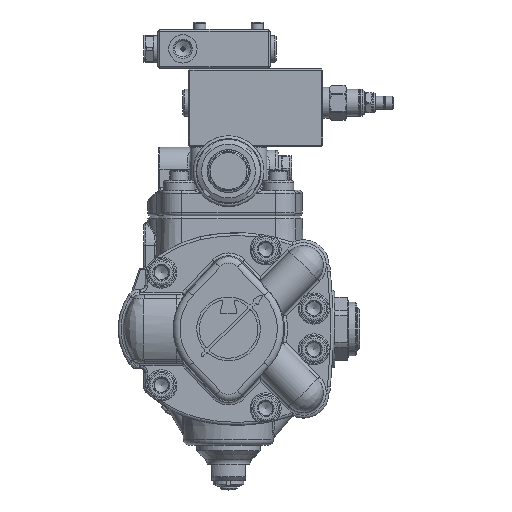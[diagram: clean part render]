
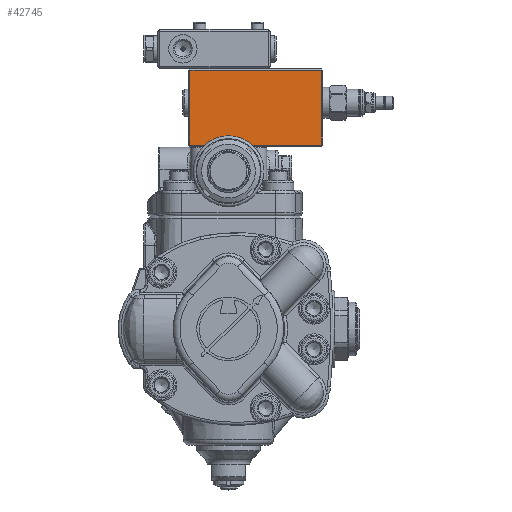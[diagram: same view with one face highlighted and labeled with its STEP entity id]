
A CAD part, top view. The second image highlights one B-rep face of the part: STEP entity #42745.
In plain terms, the highlighted planar face has unit normal (0, 0, 1).
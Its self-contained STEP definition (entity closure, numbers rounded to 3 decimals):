
#1926=PLANE('',#46626);
#4347=FACE_OUTER_BOUND('',#6818,.T.);
#6818=EDGE_LOOP('',(#35519,#35520,#35521,#35522));
#12560=LINE('',#86159,#14978);
#12561=LINE('',#86161,#14979);
#12562=LINE('',#86163,#14980);
#12563=LINE('',#86164,#14981);
#14978=VECTOR('',#56320,10.);
#14979=VECTOR('',#56321,10.);
#14980=VECTOR('',#56322,10.);
#14981=VECTOR('',#56323,10.);
#18640=VERTEX_POINT('',#86157);
#18641=VERTEX_POINT('',#86158);
#18642=VERTEX_POINT('',#86160);
#18643=VERTEX_POINT('',#86162);
#24403=EDGE_CURVE('',#18640,#18641,#12560,.T.);
#24404=EDGE_CURVE('',#18642,#18640,#12561,.T.);
#24405=EDGE_CURVE('',#18643,#18642,#12562,.T.);
#24406=EDGE_CURVE('',#18641,#18643,#12563,.T.);
#35519=ORIENTED_EDGE('',*,*,#24403,.F.);
#35520=ORIENTED_EDGE('',*,*,#24404,.F.);
#35521=ORIENTED_EDGE('',*,*,#24405,.F.);
#35522=ORIENTED_EDGE('',*,*,#24406,.F.);
#42745=ADVANCED_FACE('',(#4347),#1926,.T.);
#46626=AXIS2_PLACEMENT_3D('',#86156,#56318,#56319);
#56318=DIRECTION('center_axis',(0.,0.,
1.));
#56319=DIRECTION('ref_axis',(0.,1.,0.));
#56320=DIRECTION('',(1.,0.,0.));
#56321=DIRECTION('',(0.,1.,0.));
#56322=DIRECTION('',(-1.,0.,0.));
#56323=DIRECTION('',(0.,-1.,0.));
#86156=CARTESIAN_POINT('Origin',(100.297,174.193,74.283));
#86157=CARTESIAN_POINT('',(101.297,173.193,74.283));
#86158=CARTESIAN_POINT('',(194.297,173.193,74.283));
#86159=CARTESIAN_POINT('',(124.047,173.193,74.283));
#86160=CARTESIAN_POINT('',(101.297,120.193,74.283));
#86161=CARTESIAN_POINT('',(101.297,174.193,74.283));
#86162=CARTESIAN_POINT('',(194.297,120.193,74.283));
#86163=CARTESIAN_POINT('',(124.047,120.193,74.283));
#86164=CARTESIAN_POINT('',(194.297,174.193,74.283));
